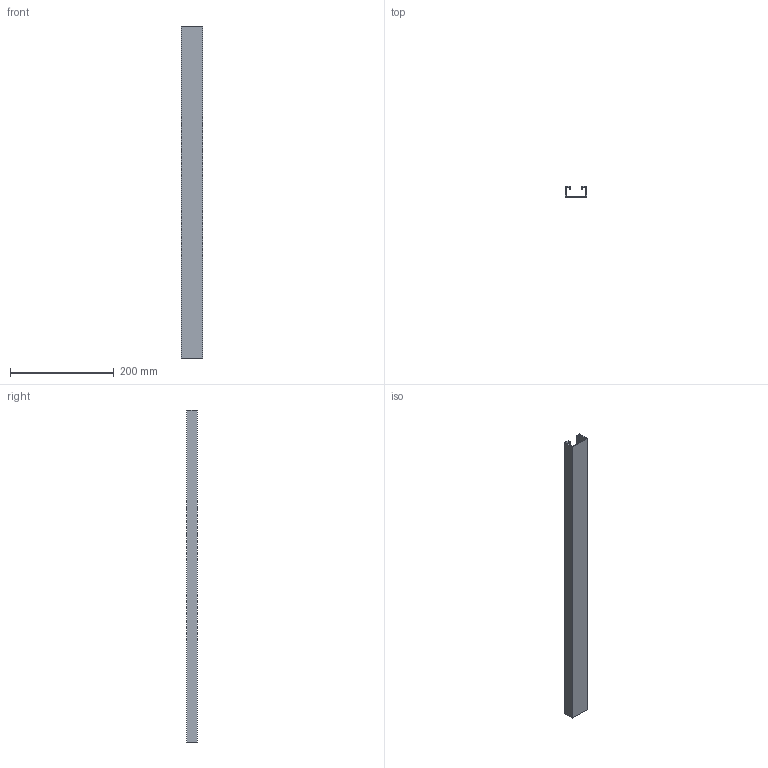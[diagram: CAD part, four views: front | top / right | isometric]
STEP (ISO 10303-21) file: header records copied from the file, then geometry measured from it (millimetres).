
FILE_DESCRIPTION(/* description */ ('xxxxxx'),/* implementation_level */ '2;1');
FILE_NAME(/* name */ 'H:\CAD Inventor\Simplified products for BIM\STP\400302 Cyl rail 2x80l 640mm.stp',/* time_stamp */ '2022-01-27T12:01:28+01:00',/* author */ ('nath'),/* organization */ (''),/* preprocessor_version */ 'ST-DEVELOPER v18.1',/* originating_system */ 'Autodesk Inventor 2022',/* authorisation */ '');
FILE_SCHEMA (('AUTOMOTIVE_DESIGN { 1 0 10303 214 3 1 1 }'));
Length unit declared in the file: millimetre
Products named in the file (1): 400301 Cyl rail 1x80l 320 mm
Bounding box: 41 x 21 x 640 mm (x, y, z)
Volume: 100800 mm3; surface area: 136635 mm2
Topology: 1 solids, 1 shells, 18 faces, 48 edges, 32 vertices
Faces by surface type: plane 18
Entity records: 593 total; most frequent: CARTESIAN_POINT 99, ORIENTED_EDGE 96, DIRECTION 86, LINE 48, VECTOR 48, EDGE_CURVE 48, VERTEX_POINT 32, AXIS2_PLACEMENT_3D 19
